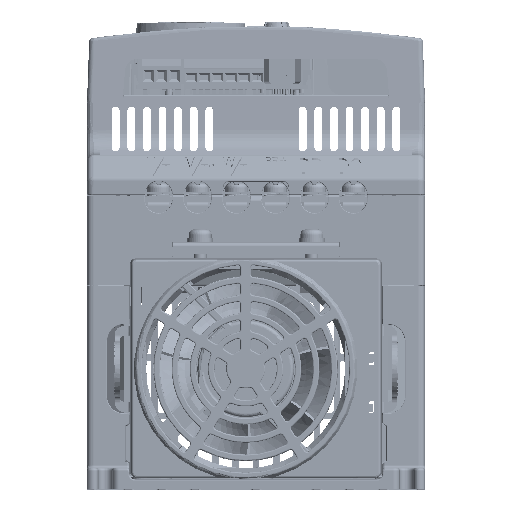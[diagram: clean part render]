
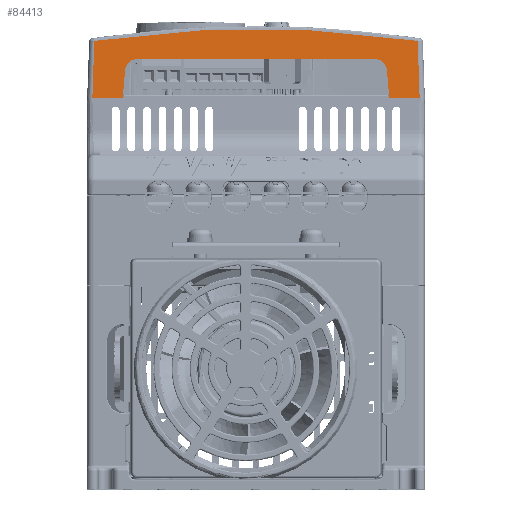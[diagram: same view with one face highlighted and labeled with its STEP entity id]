
A CAD part, top view. The second image highlights one B-rep face of the part: STEP entity #84413.
In plain terms, the highlighted planar face has unit normal (0, 0.035, 0.999).
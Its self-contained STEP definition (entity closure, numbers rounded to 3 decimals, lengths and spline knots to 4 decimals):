
#76093=DIRECTION('',(-0.087,0.996,-0.035));
#76094=VECTOR('',#76093,0.4127);
#76095=CARTESIAN_POINT('',(2.0202,5.9331,3.0906));
#76096=LINE('',#76095,#76094);
#76097=DIRECTION('',(-1.,0.,0.));
#76098=VECTOR('',#76097,3.5762);
#76099=CARTESIAN_POINT('',(1.7881,6.5236,3.0699));
#76100=LINE('',#76099,#76098);
#76101=DIRECTION('',(0.087,0.996,-0.035));
#76102=VECTOR('',#76101,0.4127);
#76103=CARTESIAN_POINT('',(-2.0202,5.9331,
3.0906));
#76104=LINE('',#76103,#76102);
#76105=DIRECTION('',(-1.,0.,0.));
#76106=VECTOR('',#76105,0.4602);
#76107=CARTESIAN_POINT('',(-2.0202,5.9331,
3.0906));
#76108=LINE('',#76107,#76106);
#76109=DIRECTION('',(-0.035,-0.999,0.035));
#76110=VECTOR('',#76109,0.8612);
#76111=CARTESIAN_POINT('',(-2.4503,6.7932,
3.0605));
#76112=LINE('',#76111,#76110);
#76113=CARTESIAN_POINT('',(2.4503,6.7932,3.0605));
#76114=CARTESIAN_POINT('',(2.1804,6.8333,3.0591));
#76115=CARTESIAN_POINT('',(1.639,6.9001,3.0568));
#76116=CARTESIAN_POINT('',(0.8207,6.9606,
3.0547));
#76117=CARTESIAN_POINT('',(0.,6.9808,
3.054));
#76118=CARTESIAN_POINT('',(-0.8207,6.9606,
3.0547));
#76119=CARTESIAN_POINT('',(-1.639,6.9001,
3.0568));
#76120=CARTESIAN_POINT('',(-2.1804,6.8333,
3.0591));
#76121=CARTESIAN_POINT('',(-2.4503,6.7932,
3.0605));
#76123=DIRECTION('',(-0.035,0.999,-0.035));
#76124=VECTOR('',#76123,0.8612);
#76125=CARTESIAN_POINT('',(2.4804,5.9331,3.0906));
#76126=LINE('',#76125,#76124);
#76127=DIRECTION('',(-1.,0.,0.));
#76128=VECTOR('',#76127,0.4602);
#76129=CARTESIAN_POINT('',(2.4804,5.9331,3.0906));
#76130=LINE('',#76129,#76128);
#76293=CARTESIAN_POINT('',(2.4804,5.9331,3.0906));
#79210=CARTESIAN_POINT('',(-1.9842,6.3439,
3.0762));
#79211=CARTESIAN_POINT('',(-1.9816,6.3739,
3.0752));
#79212=CARTESIAN_POINT('',(-1.9651,6.4215,
3.0735));
#79213=CARTESIAN_POINT('',(-1.9236,6.4746,
3.0716));
#79214=CARTESIAN_POINT('',(-1.8671,6.5113,
3.0704));
#79215=CARTESIAN_POINT('',(-1.8182,6.5236,
3.0699));
#79216=CARTESIAN_POINT('',(-1.7881,6.5236,
3.0699));
#79229=CARTESIAN_POINT('',(1.7881,6.5236,3.0699));
#79230=CARTESIAN_POINT('',(1.8182,6.5236,3.0699));
#79231=CARTESIAN_POINT('',(1.8671,6.5113,3.0704));
#79232=CARTESIAN_POINT('',(1.9236,6.4746,3.0716));
#79233=CARTESIAN_POINT('',(1.9651,6.4215,3.0735));
#79234=CARTESIAN_POINT('',(1.9816,6.3739,3.0752));
#79235=CARTESIAN_POINT('',(1.9842,6.3439,3.0762));
#83009=CARTESIAN_POINT('',(-2.4503,6.7932,
3.0605));
#83010=CARTESIAN_POINT('',(-2.4804,5.9331,
3.0906));
#83011=VERTEX_POINT('',#83009);
#83012=VERTEX_POINT('',#83010);
#83018=VERTEX_POINT('',#76113);
#83023=VERTEX_POINT('',#76293);
#83137=CARTESIAN_POINT('',(2.0202,5.9331,3.0906));
#83138=VERTEX_POINT('',#83137);
#83139=CARTESIAN_POINT('',(-2.0202,5.9331,
3.0906));
#83140=VERTEX_POINT('',#83139);
#83141=CARTESIAN_POINT('',(1.9842,6.3439,3.0762));
#83142=VERTEX_POINT('',#83141);
#83143=CARTESIAN_POINT('',(1.7881,6.5236,3.0699));
#83144=CARTESIAN_POINT('',(-1.7881,6.5236,
3.0699));
#83145=VERTEX_POINT('',#83143);
#83146=VERTEX_POINT('',#83144);
#83147=CARTESIAN_POINT('',(-1.9842,6.3439,
3.0762));
#83148=VERTEX_POINT('',#83147);
#84386=CARTESIAN_POINT('',(2.6759,5.9331,3.0906));
#84387=DIRECTION('',(0.,-0.035,-0.999));
#84388=DIRECTION('',(1.,0.,0.));
#84389=AXIS2_PLACEMENT_3D('',#84386,#84387,#84388);
#84390=PLANE('',#84389);
#84392=ORIENTED_EDGE('',*,*,#84391,.T.);
#84394=ORIENTED_EDGE('',*,*,#84393,.F.);
#84396=ORIENTED_EDGE('',*,*,#84395,.T.);
#84398=ORIENTED_EDGE('',*,*,#84397,.F.);
#84400=ORIENTED_EDGE('',*,*,#84399,.F.);
#84402=ORIENTED_EDGE('',*,*,#84401,.T.);
#84404=ORIENTED_EDGE('',*,*,#84403,.F.);
#84406=ORIENTED_EDGE('',*,*,#84405,.F.);
#84408=ORIENTED_EDGE('',*,*,#84407,.F.);
#84410=ORIENTED_EDGE('',*,*,#84409,.T.);
#84411=EDGE_LOOP('',(#84392,#84394,#84396,#84398,#84400,#84402,#84404,#84406,
#84408,#84410));
#84412=FACE_OUTER_BOUND('',#84411,.F.);
#84413=ADVANCED_FACE('',(#84412),#84390,.F.);
#76122=B_SPLINE_CURVE_WITH_KNOTS('',3,(#76113,#76114,#76115,#76116,#76117,
#76118,#76119,#76120,#76121),.UNSPECIFIED.,.F.,.F.,(4,1,1,1,1,1,4),(0.,
0.1667,0.3333,0.5,0.6667,0.8333,
1.),.UNSPECIFIED.);
#79217=B_SPLINE_CURVE_WITH_KNOTS('',3,(#79210,#79211,#79212,#79213,#79214,
#79215,#79216),.UNSPECIFIED.,.F.,.F.,(4,1,1,1,4),(0.,0.25,0.5,0.75,
1.),.UNSPECIFIED.);
#79236=B_SPLINE_CURVE_WITH_KNOTS('',3,(#79229,#79230,#79231,#79232,#79233,
#79234,#79235),.UNSPECIFIED.,.F.,.F.,(4,1,1,1,4),(0.,0.25,0.5,0.75,
1.),.UNSPECIFIED.);
#84391=EDGE_CURVE('',#83138,#83142,#76096,.T.);
#84393=EDGE_CURVE('',#83145,#83142,#79236,.T.);
#84395=EDGE_CURVE('',#83145,#83146,#76100,.T.);
#84397=EDGE_CURVE('',#83148,#83146,#79217,.T.);
#84399=EDGE_CURVE('',#83140,#83148,#76104,.T.);
#84401=EDGE_CURVE('',#83140,#83012,#76108,.T.);
#84403=EDGE_CURVE('',#83011,#83012,#76112,.T.);
#84405=EDGE_CURVE('',#83018,#83011,#76122,.T.);
#84407=EDGE_CURVE('',#83023,#83018,#76126,.T.);
#84409=EDGE_CURVE('',#83023,#83138,#76130,.T.);
